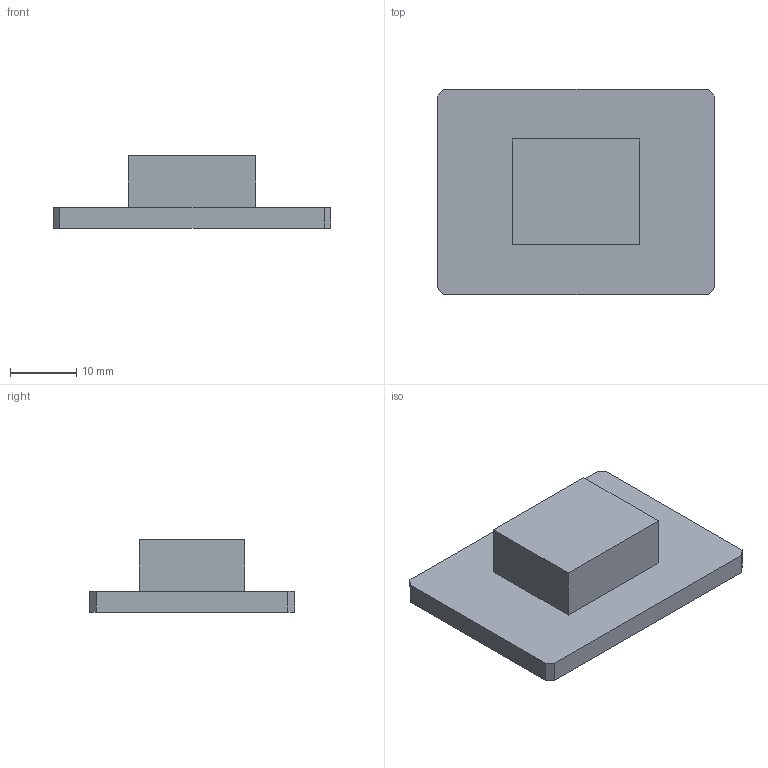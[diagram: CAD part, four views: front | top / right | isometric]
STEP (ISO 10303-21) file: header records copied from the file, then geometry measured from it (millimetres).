
FILE_DESCRIPTION((''),'2;1');
FILE_NAME('2503643A.stp','2001-10-26T14:44:59',(''),(''),'AutoCAD STEP 2000i','AutoCAD 2000i',', , ');
FILE_SCHEMA(('CONFIG_CONTROL_DESIGN'));
Length unit declared in the file: millimetre
Products named in the file (2): 2503643AA; 2503643A
Assembly tree (1 placements, depth 2):
  2503643AA
    2503643A
Bounding box: 42 x 31 x 10.97 mm (x, y, z)
Volume: 6536.1 mm3; surface area: 3606.8 mm2
Topology: 1 solids, 1 shells, 15 faces, 36 edges, 24 vertices
Faces by surface type: plane 15
Entity records: 539 total; most frequent: CARTESIAN_POINT 77, ORIENTED_EDGE 72, DIRECTION 70, VECTOR 36, LINE 36, EDGE_CURVE 36, VERTEX_POINT 24, AXIS2_PLACEMENT_3D 17
